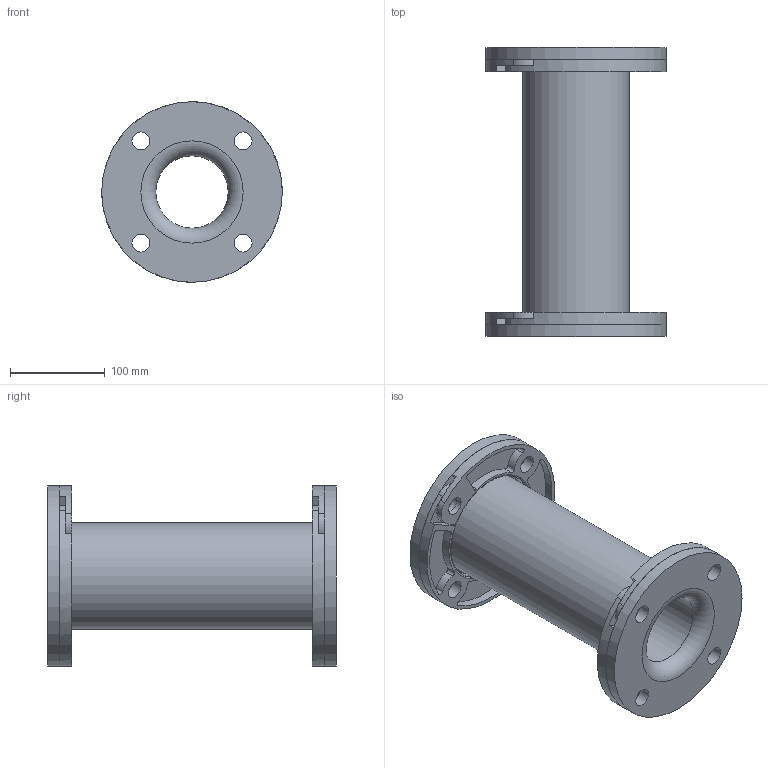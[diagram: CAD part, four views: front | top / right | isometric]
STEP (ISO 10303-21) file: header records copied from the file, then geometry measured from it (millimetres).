
FILE_DESCRIPTION(/* description */ (''),/* implementation_level */ '2;1');
FILE_NAME(/* name */ 'C:\001_Work\Designs\Mercer2014\MQInventor2014\RajR\150 Style\STP\STYLE 150 ASA150LB\150-3IDx12FF ASA150LB.stp',/* time_stamp */ '2016-05-20T18:40:47-04:00',/* author */ ('rramoutar'),/* organization */ ('Mason Industries Inc.'),/* preprocessor_version */ 'ST-DEVELOPER v15.6',/* originating_system */ 'Autodesk Inventor 2015',/* authorisation */ '');
FILE_SCHEMA (('CONFIG_CONTROL_DESIGN'));
Length unit declared in the file: inch
Products named in the file (1): 150-3IDx12FF
Bounding box: 190.5 x 304.8 x 190.5 mm (x, y, z)
Volume: 2296954 mm3; surface area: 388136.2 mm2
Topology: 3 solids, 3 shells, 162 faces, 438 edges, 292 vertices
Faces by surface type: cylinder 98, plane 52, torus 12
Full cylindrical faces by diameter (mm): 19.05 x18, 76.2 x1, 112.37 x1, 190.5 x2
Entity records: 5508 total; most frequent: CARTESIAN_POINT 1075, DIRECTION 950, ORIENTED_EDGE 816, EDGE_CURVE 408, AXIS2_PLACEMENT_3D 395, VERTEX_POINT 288, EDGE_LOOP 236, CIRCLE 232
